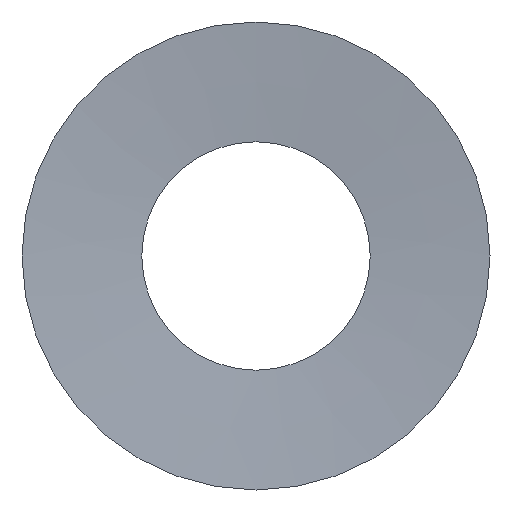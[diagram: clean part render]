
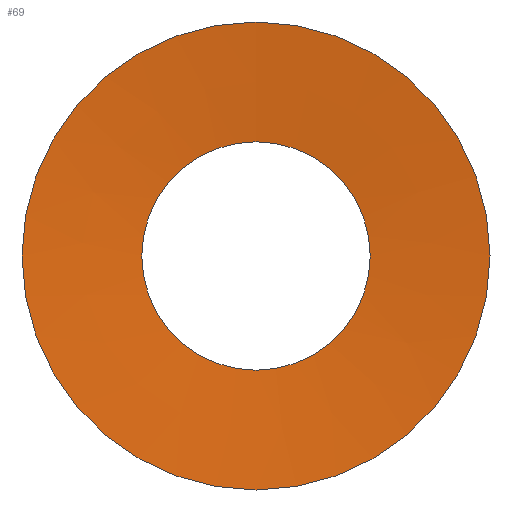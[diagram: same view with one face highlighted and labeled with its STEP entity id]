
A CAD part, front view. The second image highlights one B-rep face of the part: STEP entity #69.
In plain terms, the highlighted conical face has half-angle 85.136 degrees and reference radius 9.3 mm.
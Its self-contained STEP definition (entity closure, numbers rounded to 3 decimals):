
#19=FACE_OUTER_BOUND('',#23,.T.);
#23=EDGE_LOOP('',(#57,#58,#59,#60));
#27=LINE('',#137,#31);
#31=VECTOR('',#118,9.3);
#35=CIRCLE('',#98,6.1);
#36=CIRCLE('',#100,12.5);
#39=VERTEX_POINT('',#132);
#40=VERTEX_POINT('',#136);
#45=EDGE_CURVE('',#39,#39,#35,.T.);
#46=EDGE_CURVE('',#39,#40,#27,.T.);
#47=EDGE_CURVE('',#40,#40,#36,.T.);
#57=ORIENTED_EDGE('',*,*,#45,.T.);
#58=ORIENTED_EDGE('',*,*,#46,.T.);
#59=ORIENTED_EDGE('',*,*,#47,.F.);
#60=ORIENTED_EDGE('',*,*,#46,.F.);
#66=CONICAL_SURFACE('',#99,9.3,1.486);
#69=ADVANCED_FACE('',(#19),#66,.F.);
#98=AXIS2_PLACEMENT_3D('',#134,#114,#115);
#99=AXIS2_PLACEMENT_3D('',#135,#116,#117);
#100=AXIS2_PLACEMENT_3D('',#138,#119,#120);
#114=DIRECTION('center_axis',(0.,1.,0.));
#115=DIRECTION('ref_axis',(1.,0.,0.));
#116=DIRECTION('center_axis',(0.,-1.,0.));
#117=DIRECTION('ref_axis',(0.,0.,-1.));
#118=DIRECTION('',(0.,-0.085,0.996));
#119=DIRECTION('center_axis',(0.,1.,0.));
#120=DIRECTION('ref_axis',(1.,0.,0.));
#132=CARTESIAN_POINT('',(0.,0.545,6.1));
#134=CARTESIAN_POINT('Origin',(0.,0.545,0.));
#135=CARTESIAN_POINT('Origin',(0.,0.272,0.));
#136=CARTESIAN_POINT('',(0.,0.,12.5));
#137=CARTESIAN_POINT('',(0.,0.272,9.3));
#138=CARTESIAN_POINT('Origin',(0.,0.,0.));
